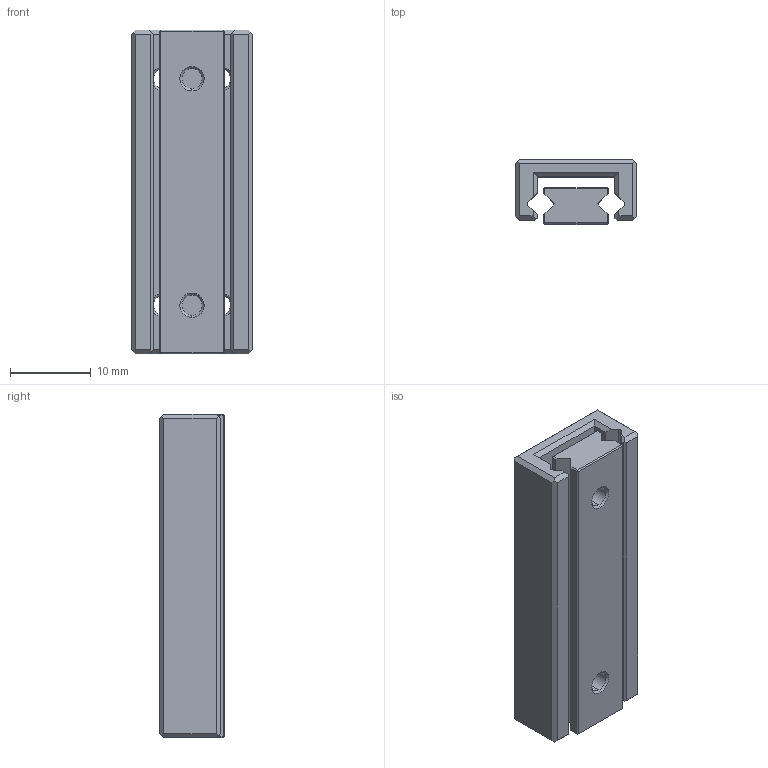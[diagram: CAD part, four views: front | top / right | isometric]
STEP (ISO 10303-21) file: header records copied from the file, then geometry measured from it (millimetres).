
FILE_DESCRIPTION (( 'STEP AP214' ), '1' );
FILE_NAME ('PMM 2-40.STEP', '2012-03-02T11:36:23', ( '' ), ( '' ), 'SwSTEP 2.0', 'SolidWorks 2011', '' );
FILE_SCHEMA (( 'AUTOMOTIVE_DESIGN' ));
Length unit declared in the file: millimetre
Products named in the file (1): PMM 2-40
Bounding box: 15 x 8 x 40 mm (x, y, z)
Volume: 3456.6 mm3; surface area: 3550.4 mm2
Topology: 2 solids, 2 shells, 256 faces, 708 edges, 468 vertices
Faces by surface type: plane 174, bspline 43, cone 24, cylinder 15
Entity records: 12009 total; most frequent: CARTESIAN_POINT 4072, ORIENTED_EDGE 1416, DIRECTION 1120, EDGE_CURVE 708, VECTOR 544, LINE 544, VERTEX_POINT 468, AXIS2_PLACEMENT_3D 288
